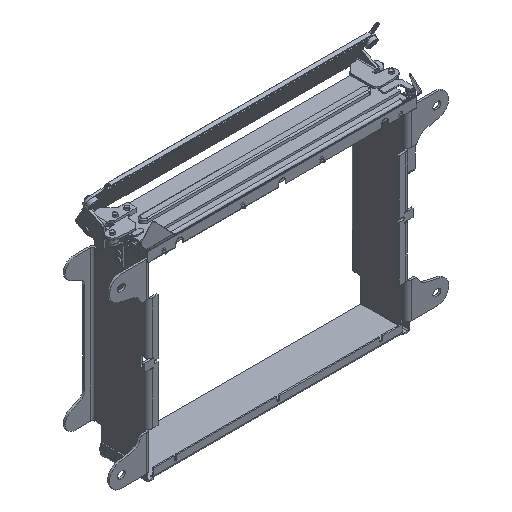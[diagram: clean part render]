
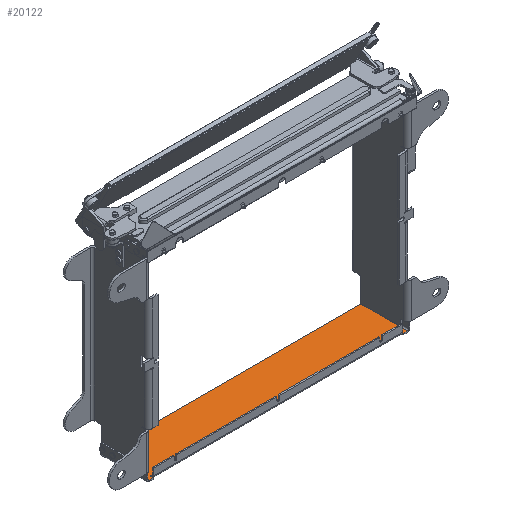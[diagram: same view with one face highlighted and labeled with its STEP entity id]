
A CAD part, isometric view. The second image highlights one B-rep face of the part: STEP entity #20122.
In plain terms, the highlighted planar face has unit normal (0, 0, 1).
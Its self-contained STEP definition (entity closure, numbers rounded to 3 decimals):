
#155 = CARTESIAN_POINT ( 'NONE',  ( 157.5, 7., -243.5 ) ) ;
#574 = ORIENTED_EDGE ( 'NONE', *, *, #27343, .F. ) ;
#623 = ORIENTED_EDGE ( 'NONE', *, *, #56291, .F. ) ;
#1598 = LINE ( 'NONE', #42224, #43952 ) ;
#2673 = LINE ( 'NONE', #53346, #52452 ) ;
#3781 = CARTESIAN_POINT ( 'NONE',  ( 163.5, 63., -243.5 ) ) ;
#4159 = VERTEX_POINT ( 'NONE', #21561 ) ;
#5134 = CARTESIAN_POINT ( 'NONE',  ( -158., 4.5, -243.5 ) ) ;
#5397 = DIRECTION ( 'NONE',  ( -1., 0., 0. ) ) ;
#5872 = CARTESIAN_POINT ( 'NONE',  ( 158., 4.5, -243.5 ) ) ;
#6654 = EDGE_CURVE ( 'NONE', #31220, #59406, #51482, .T. ) ;
#9089 = VERTEX_POINT ( 'NONE', #47876 ) ;
#10296 = DIRECTION ( 'NONE',  ( 0., 0., 1. ) ) ;
#10484 = DIRECTION ( 'NONE',  ( -1., 0., 0. ) ) ;
#10621 = EDGE_CURVE ( 'NONE', #22066, #18178, #54861, .T. ) ;
#10799 = EDGE_CURVE ( 'NONE', #31220, #44109, #59262, .T. ) ;
#10876 = LINE ( 'NONE', #59567, #51086 ) ;
#10981 = VERTEX_POINT ( 'NONE', #46715 ) ;
#11422 = LINE ( 'NONE', #155, #47845 ) ;
#11781 = FACE_OUTER_BOUND ( 'NONE', #28473, .T. ) ;
#12039 = CARTESIAN_POINT ( 'NONE',  ( -163.5, 4., -243.5 ) ) ;
#12725 = EDGE_CURVE ( 'NONE', #9089, #31703, #1598, .T. ) ;
#12904 = DIRECTION ( 'NONE',  ( 1., 0., 0. ) ) ;
#13182 = ORIENTED_EDGE ( 'NONE', *, *, #15896, .F. ) ;
#13295 = VERTEX_POINT ( 'NONE', #16493 ) ;
#13303 = DIRECTION ( 'NONE',  ( 0., 1., 0. ) ) ;
#13843 = LINE ( 'NONE', #3781, #50290 ) ;
#14065 = DIRECTION ( 'NONE',  ( 1., 0., 0. ) ) ;
#14135 = VERTEX_POINT ( 'NONE', #19038 ) ;
#15390 = CARTESIAN_POINT ( 'NONE',  ( 157.75, 7.5, -243.5 ) ) ;
#15896 = EDGE_CURVE ( 'NONE', #31703, #10981, #44261, .T. ) ;
#16493 = CARTESIAN_POINT ( 'NONE',  ( -163.5, 63., -243.5 ) ) ;
#17771 = VERTEX_POINT ( 'NONE', #27718 ) ;
#18054 = CARTESIAN_POINT ( 'NONE',  ( -157.75, 7.5, -243.5 ) ) ;
#18178 = VERTEX_POINT ( 'NONE', #44693 ) ;
#18299 = VECTOR ( 'NONE', #31568, 1000. ) ;
#18538 = DIRECTION ( 'NONE',  ( 0., 0., -1. ) ) ;
#19038 = CARTESIAN_POINT ( 'NONE',  ( 163.5, 63., -243.5 ) ) ;
#19427 = AXIS2_PLACEMENT_3D ( 'NONE', #56911, #57303, #5397 ) ;
#20122 = ADVANCED_FACE ( 'NONE', ( #11781 ), #23902, .F. ) ;
#20557 = DIRECTION ( 'NONE',  ( 1., 0., 0. ) ) ;
#21101 = EDGE_CURVE ( 'NONE', #14135, #4159, #13843, .T. ) ;
#21450 = ORIENTED_EDGE ( 'NONE', *, *, #12725, .F. ) ;
#21561 = CARTESIAN_POINT ( 'NONE',  ( 163.5, 4., -243.5 ) ) ;
#21873 = DIRECTION ( 'NONE',  ( -1., 0., 0. ) ) ;
#21933 = EDGE_CURVE ( 'NONE', #10981, #41534, #2673, .T. ) ;
#22066 = VERTEX_POINT ( 'NONE', #30856 ) ;
#22680 = AXIS2_PLACEMENT_3D ( 'NONE', #34192, #10296, #10484 ) ;
#23695 = CARTESIAN_POINT ( 'NONE',  ( 0., 4., -243.5 ) ) ;
#23839 = CARTESIAN_POINT ( 'NONE',  ( 157.5, 7.5, -243.5 ) ) ;
#23902 = PLANE ( 'NONE',  #38767 ) ;
#24958 = CARTESIAN_POINT ( 'NONE',  ( 158., 4., -243.5 ) ) ;
#25293 = CARTESIAN_POINT ( 'NONE',  ( 158.5, 4., -243.5 ) ) ;
#26846 = ORIENTED_EDGE ( 'NONE', *, *, #21933, .F. ) ;
#27343 = EDGE_CURVE ( 'NONE', #4159, #59406, #10876, .T. ) ;
#27718 = CARTESIAN_POINT ( 'NONE',  ( 157.5, 7., -243.5 ) ) ;
#27801 = VECTOR ( 'NONE', #45091, 1000. ) ;
#28073 = DIRECTION ( 'NONE',  ( 0., 0., 1. ) ) ;
#28473 = EDGE_LOOP ( 'NONE', ( #57706, #28829, #26846, #13182, #21450, #35993, #31309, #56241, #57293, #42162, #574, #53363, #623, #31329 ) ) ;
#28829 = ORIENTED_EDGE ( 'NONE', *, *, #33774, .T. ) ;
#29849 = EDGE_CURVE ( 'NONE', #17771, #9089, #11422, .T. ) ;
#29869 = AXIS2_PLACEMENT_3D ( 'NONE', #15390, #34772, #20557 ) ;
#30093 = LINE ( 'NONE', #23839, #45686 ) ;
#30856 = CARTESIAN_POINT ( 'NONE',  ( -158.5, 4., -243.5 ) ) ;
#31220 = VERTEX_POINT ( 'NONE', #5872 ) ;
#31309 = ORIENTED_EDGE ( 'NONE', *, *, #60025, .F. ) ;
#31329 = ORIENTED_EDGE ( 'NONE', *, *, #60370, .F. ) ;
#31568 = DIRECTION ( 'NONE',  ( 0., 1., 0. ) ) ;
#31703 = VERTEX_POINT ( 'NONE', #37975 ) ;
#33111 = CARTESIAN_POINT ( 'NONE',  ( 157.5, 7.5, -243.5 ) ) ;
#33406 = AXIS2_PLACEMENT_3D ( 'NONE', #18054, #28073, #12904 ) ;
#33753 = DIRECTION ( 'NONE',  ( -1., 0., 0. ) ) ;
#33774 = EDGE_CURVE ( 'NONE', #22066, #41534, #60011, .T. ) ;
#34154 = CIRCLE ( 'NONE', #29869, 0.25 ) ;
#34192 = CARTESIAN_POINT ( 'NONE',  ( -158.5, 4.5, -243.5 ) ) ;
#34772 = DIRECTION ( 'NONE',  ( 0., 0., 1. ) ) ;
#35993 = ORIENTED_EDGE ( 'NONE', *, *, #29849, .F. ) ;
#37975 = CARTESIAN_POINT ( 'NONE',  ( -157.5, 7.5, -243.5 ) ) ;
#38098 = DIRECTION ( 'NONE',  ( -1., 0., 0. ) ) ;
#38247 = VECTOR ( 'NONE', #14065, 1000. ) ;
#38483 = EDGE_CURVE ( 'NONE', #44109, #57795, #34154, .T. ) ;
#38572 = DIRECTION ( 'NONE',  ( -1., 0., 0. ) ) ;
#38767 = AXIS2_PLACEMENT_3D ( 'NONE', #23695, #18538, #38098 ) ;
#40844 = CARTESIAN_POINT ( 'NONE',  ( 158., 7.5, -243.5 ) ) ;
#41534 = VERTEX_POINT ( 'NONE', #5134 ) ;
#42162 = ORIENTED_EDGE ( 'NONE', *, *, #6654, .T. ) ;
#42224 = CARTESIAN_POINT ( 'NONE',  ( -157.5, 7., -243.5 ) ) ;
#42448 = DIRECTION ( 'NONE',  ( 0., -1., 0. ) ) ;
#43952 = VECTOR ( 'NONE', #13303, 1000. ) ;
#44109 = VERTEX_POINT ( 'NONE', #40844 ) ;
#44261 = CIRCLE ( 'NONE', #33406, 0.25 ) ;
#44693 = CARTESIAN_POINT ( 'NONE',  ( -163.5, 4., -243.5 ) ) ;
#45091 = DIRECTION ( 'NONE',  ( 0., 1., 0. ) ) ;
#45686 = VECTOR ( 'NONE', #42448, 1000. ) ;
#46715 = CARTESIAN_POINT ( 'NONE',  ( -158., 7.5, -243.5 ) ) ;
#47651 = CARTESIAN_POINT ( 'NONE',  ( 161.5, 4., -243.5 ) ) ;
#47845 = VECTOR ( 'NONE', #38572, 1000. ) ;
#47876 = CARTESIAN_POINT ( 'NONE',  ( -157.5, 7., -243.5 ) ) ;
#50290 = VECTOR ( 'NONE', #60915, 1000. ) ;
#51086 = VECTOR ( 'NONE', #21873, 1000. ) ;
#51482 = CIRCLE ( 'NONE', #19427, 0.5 ) ;
#52310 = CARTESIAN_POINT ( 'NONE',  ( 161.5, 63., -243.5 ) ) ;
#52452 = VECTOR ( 'NONE', #52920, 1000. ) ;
#52920 = DIRECTION ( 'NONE',  ( 0., -1., 0. ) ) ;
#53346 = CARTESIAN_POINT ( 'NONE',  ( -158., 7.5, -243.5 ) ) ;
#53363 = ORIENTED_EDGE ( 'NONE', *, *, #21101, .F. ) ;
#54861 = LINE ( 'NONE', #47651, #58553 ) ;
#55362 = LINE ( 'NONE', #52310, #38247 ) ;
#56241 = ORIENTED_EDGE ( 'NONE', *, *, #38483, .F. ) ;
#56291 = EDGE_CURVE ( 'NONE', #13295, #14135, #55362, .T. ) ;
#56911 = CARTESIAN_POINT ( 'NONE',  ( 158.5, 4.5, -243.5 ) ) ;
#57293 = ORIENTED_EDGE ( 'NONE', *, *, #10799, .F. ) ;
#57303 = DIRECTION ( 'NONE',  ( 0., 0., 1. ) ) ;
#57706 = ORIENTED_EDGE ( 'NONE', *, *, #10621, .F. ) ;
#57795 = VERTEX_POINT ( 'NONE', #33111 ) ;
#58553 = VECTOR ( 'NONE', #33753, 1000. ) ;
#59262 = LINE ( 'NONE', #24958, #18299 ) ;
#59406 = VERTEX_POINT ( 'NONE', #25293 ) ;
#59567 = CARTESIAN_POINT ( 'NONE',  ( 161.5, 4., -243.5 ) ) ;
#60011 = CIRCLE ( 'NONE', #22680, 0.5 ) ;
#60025 = EDGE_CURVE ( 'NONE', #57795, #17771, #30093, .T. ) ;
#60370 = EDGE_CURVE ( 'NONE', #18178, #13295, #61283, .T. ) ;
#60915 = DIRECTION ( 'NONE',  ( 0., -1., 0. ) ) ;
#61283 = LINE ( 'NONE', #12039, #27801 ) ;
